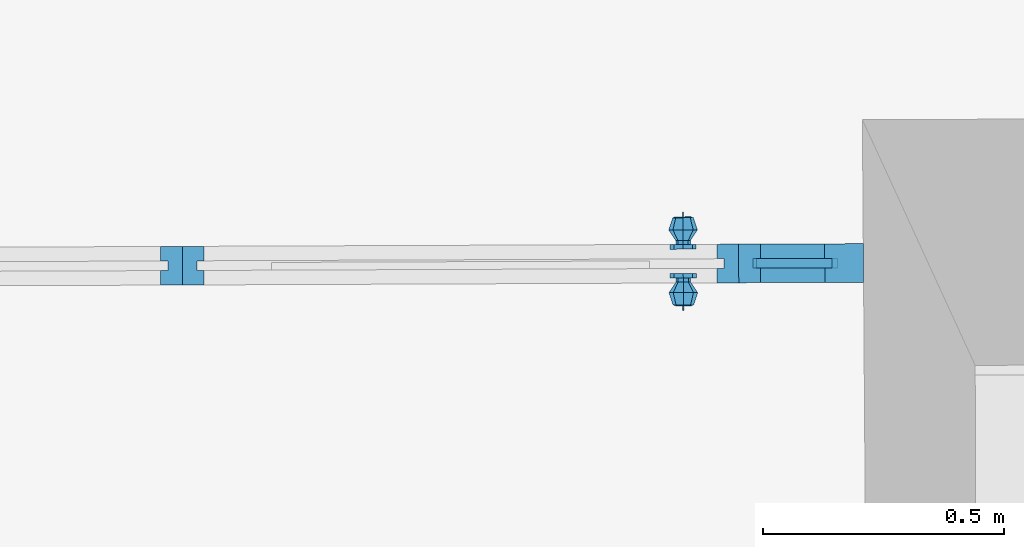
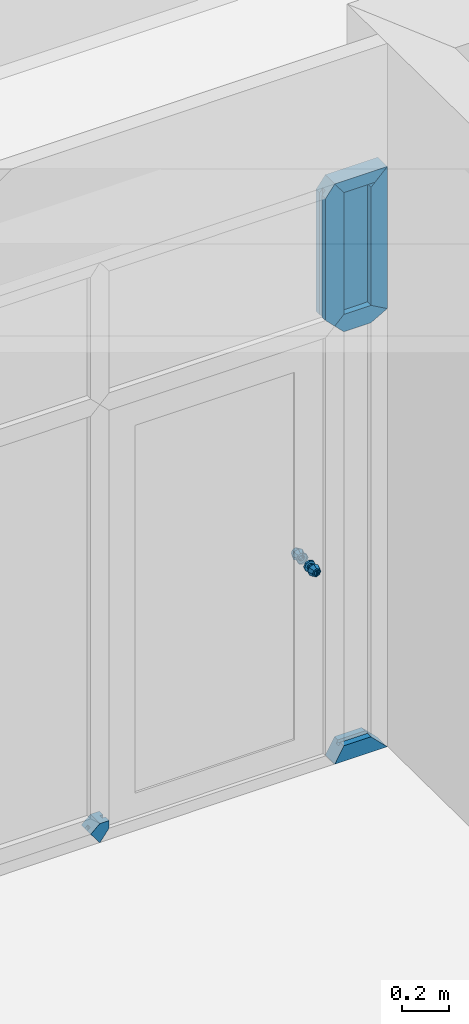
# One storey, part 155 of 196: 8 building element parts, 1 element without a shape of its own.
"""IFC2X3 building model written with IfcOpenShell, lengths in metres."""

from ifc_helpers import new_model, entity, si_unit, converted_unit, derived_unit, money_unit, direction, frame, origin_with_axes, place, context, subcontext, project, spatial, open_shell, faceted_brep, surface_model, material, type_object, element, aggregate, save


model = new_model("IFC2X3")

# Units and contexts
model_context = context("Model", 3, precision=1e-05, world=origin_with_axes(), true_north=direction((0.0, 1.0)))
body_context = subcontext(model_context, "Body", "Model", "MODEL_VIEW")
ifc_project = project(units=[si_unit("LENGTHUNIT", "METRE"), si_unit("AREAUNIT", "SQUARE_METRE"), si_unit("VOLUMEUNIT", "CUBIC_METRE"), converted_unit("PLANEANGLEUNIT", "DEGREE", entity("IfcPlaneAngleMeasure", 0.0174532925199), si_unit("PLANEANGLEUNIT", "RADIAN"), dimensions=[0, 0, 0, 0, 0, 0, 0]), money_unit("EUR"), converted_unit("TIMEUNIT", "Year", entity("IfcTimeMeasure", 31556926.0), si_unit("TIMEUNIT", "SECOND"), dimensions=[0, 0, 1, 0, 0, 0, 0]), si_unit("MASSUNIT", "GRAM", prefix="KILO"), si_unit("THERMODYNAMICTEMPERATUREUNIT", "DEGREE_CELSIUS"), si_unit("LUMINOUSINTENSITYUNIT", "LUMEN"), si_unit("ENERGYUNIT", "JOULE", prefix="MEGA"), derived_unit("THERMALCONDUCTANCEUNIT", [(si_unit("POWERUNIT", "WATT"), 1), (si_unit("LENGTHUNIT", "METRE"), -1), (si_unit("THERMODYNAMICTEMPERATUREUNIT", "KELVIN"), -1)]), derived_unit("SPECIFICHEATCAPACITYUNIT", [(si_unit("ENERGYUNIT", "JOULE"), 1), (si_unit("MASSUNIT", "GRAM", prefix="KILO"), -1), (si_unit("THERMODYNAMICTEMPERATUREUNIT", "KELVIN"), -1)]), derived_unit("MASSDENSITYUNIT", [(si_unit("MASSUNIT", "GRAM", prefix="KILO"), 1), (si_unit("VOLUMEUNIT", "CUBIC_METRE"), -1)])], contexts=[model_context])

# Site, building, storey
site_placement = place(None, origin_with_axes())
site = spatial("IfcSite", under=ifc_project, at=site_placement, Name="Gelände", CompositionType="ELEMENT")
building_placement = place(site_placement, origin_with_axes())
building = spatial("IfcBuilding", under=site, at=building_placement, Name="Gebäude", CompositionType="ELEMENT")
storey_placement = place(building_placement, frame((0.0, 0.0, -3.0), z_axis=(0.0, 0.0, 1.0), x_axis=(1.0, 0.0, 0.0)))
storey = spatial("IfcBuildingStorey", under=building, at=storey_placement, Name="KELLERGESCHOSS", CompositionType="ELEMENT", Elevation=-3.0)

# Proxy, building element parts
building_element_proxy_type = type_object("IfcBuildingElementProxyType", Name="Fassadentyp", PredefinedType="NOTDEFINED")
proxy_placement = place(storey_placement, frame((-23.852064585, 42.2751077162, 0.417602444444), z_axis=(0.0, 0.0, 1.0), x_axis=(1.0, 0.0, 0.0)))
proxy = element("IfcBuildingElementProxy", 1, at=proxy_placement, inside=storey, type_object=building_element_proxy_type, Name="Fassade-002")
ifc_material_1 = material(Name="45_Glas, Normalglas")
building_element_part_1_placement = place(proxy_placement, origin_with_axes())
building_element_part_1 = element("IfcBuildingElementPart", 2, at=building_element_part_1_placement, material=ifc_material_1, Name="45_Glas, Normalglas", context=body_context, shape_type="Brep", body=[
    faceted_brep([(0.0641194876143, 0.0102561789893, 2.96000001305), (-0.0991990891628, 0.00960386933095, 2.96000001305), (-0.0991192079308, -0.0103959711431, 2.96000001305), (0.0641993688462, -0.00974366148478, 2.96000001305), (0.0641194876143, 0.0102561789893, 2.29924697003), (-0.0991990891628, 0.00960386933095, 2.29924697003), (-0.0991192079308, -0.0103959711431, 2.29924697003), (0.0641993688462, -0.00974366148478, 2.29924697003)], [[[0, 1, 2, 3]], [[0, 4, 5, 1]], [[1, 5, 6, 2]], [[3, 2, 6, 7]], [[4, 0, 3, 7]], [[5, 4, 7, 6]]]),
])
ifc_material_2 = material(Name="54_Metall, Edelstahl")
building_element_part_2_placement = place(proxy_placement, origin_with_axes())
building_element_part_2 = element("IfcBuildingElementPart", 3, at=building_element_part_2_placement, material=ifc_material_2, Name="54_Metall, Edelstahl", context=body_context, shape_type="SurfaceModel", body=[
    surface_model("IfcShellBasedSurfaceModel", [(-0.235817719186, -0.0861557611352, 1.0679999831), (-0.232307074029, -0.0882037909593, 1.07150242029), (-0.24380941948, -0.088249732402, 1.07626688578), (-0.243817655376, -0.086187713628, 1.07131369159), (-0.232504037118, -0.0861425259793, 1.0599999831), (-0.227542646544, -0.0881847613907, 1.0599999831), (-0.22880939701, -0.0861395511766, 1.07500831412), (-0.243817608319, -0.0861994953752, 1.08122496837), (-0.255311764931, -0.0882956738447, 1.07150242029), (-0.251817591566, -0.0862196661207, 1.0679999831), (-0.255131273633, -0.0862329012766, 1.0599999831), (-0.251817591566, -0.0862196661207, 1.0519999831), (-0.243817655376, -0.086187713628, 1.0486862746), (-0.235817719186, -0.0861557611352, 1.0519999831), (-0.232307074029, -0.0882037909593, 1.0484975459), (-0.222592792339, -0.0861147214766, 1.0599999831), (-0.222875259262, -0.060967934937, 1.08104294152), (-0.243918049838, -0.0610519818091, 1.08975922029), (-0.258825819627, -0.0862594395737, 1.07500831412), (-0.260076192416, -0.0883147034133, 1.0599999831), (-0.255311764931, -0.0882956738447, 1.0484975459), (-0.24380941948, -0.088249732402, 1.04373308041), (-0.22880939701, -0.0861395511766, 1.04499165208), (-0.214159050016, -0.0609331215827, 1.0599999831), (-0.233399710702, -0.0389325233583, 1.07060658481), (-0.244006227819, -0.0389748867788, 1.0749999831), (-0.264960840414, -0.0611360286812, 1.08104294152), (-0.265042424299, -0.0862842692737, 1.0599999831), (-0.258825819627, -0.0862594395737, 1.04499165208), (-0.243817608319, -0.0861994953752, 1.03877499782), (-0.222875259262, -0.060967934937, 1.03895702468), (-0.229006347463, -0.0389149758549, 1.0599999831), (-0.233399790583, -0.0389125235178, 1.07060658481), (-0.2440063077, -0.0389548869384, 1.0749999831), (-0.254612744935, -0.0390172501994, 1.07060658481), (-0.27367704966, -0.0611708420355, 1.0599999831), (-0.264960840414, -0.0611360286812, 1.03895702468), (-0.243918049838, -0.0610519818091, 1.03024074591), (-0.233399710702, -0.0389325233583, 1.04939338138), (-0.229006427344, -0.0388949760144, 1.0599999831), (-0.233431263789, -0.031032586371, 1.07060658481), (-0.244037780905, -0.0310749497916, 1.0749999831), (-0.254612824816, -0.0389972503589, 1.07060658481), (-0.259006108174, -0.0390347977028, 1.0599999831), (-0.254612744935, -0.0390172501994, 1.04939338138), (-0.244006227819, -0.0389748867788, 1.0449999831), (-0.233399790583, -0.0389125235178, 1.04939338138), (-0.22903790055, -0.0310150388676, 1.0599999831), (-0.233431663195, -0.0309325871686, 1.07060658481), (-0.244038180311, -0.0309749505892, 1.0749999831), (-0.254644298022, -0.0311173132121, 1.07060658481), (-0.259006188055, -0.0390147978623, 1.0599999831), (-0.254612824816, -0.0389972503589, 1.04939338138), (-0.2440063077, -0.0389548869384, 1.0449999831), (-0.233431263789, -0.031032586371, 1.04939338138), (-0.229038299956, -0.0309150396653, 1.0599999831), (-0.233360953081, -0.0309323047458, 1.07067729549), (-0.244038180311, -0.0309749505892, 1.0750999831), (-0.254644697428, -0.0310173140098, 1.07060658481), (-0.259037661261, -0.0311348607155, 1.0599999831), (-0.254644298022, -0.0311173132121, 1.04939338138), (-0.244037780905, -0.0310749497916, 1.0449999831), (-0.233431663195, -0.0309325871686, 1.04939338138), (-0.228938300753, -0.0309146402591, 1.0599999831), (-0.225017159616, -0.030898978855, 1.07902115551), (-0.244038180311, -0.0309749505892, 1.0868999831), (-0.254715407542, -0.0310175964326, 1.07067729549), (-0.259038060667, -0.0310348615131, 1.0599999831), (-0.254644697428, -0.0310173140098, 1.04939338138), (-0.244038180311, -0.0309749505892, 1.0449999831), (-0.233360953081, -0.0309323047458, 1.0493226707), (-0.217138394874, -0.0308675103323, 1.0599999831), (-0.224946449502, -0.0308986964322, 1.07909186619), (-0.244038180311, -0.0309749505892, 1.0869999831), (-0.263059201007, -0.0310509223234, 1.07902115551), (-0.259138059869, -0.0310352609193, 1.0599999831), (-0.254715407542, -0.0310175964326, 1.0493226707), (-0.244038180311, -0.0309749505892, 1.0448999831), (-0.225017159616, -0.030898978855, 1.04097881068), (-0.217038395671, -0.0308671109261, 1.0599999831), (-0.224946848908, -0.0307986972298, 1.07909186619), (-0.244038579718, -0.0308749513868, 1.0869999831), (-0.263129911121, -0.0310512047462, 1.07909186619), (-0.270937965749, -0.0310823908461, 1.0599999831), (-0.263059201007, -0.0310509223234, 1.04097881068), (-0.244038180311, -0.0309749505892, 1.0330999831), (-0.224946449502, -0.0308986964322, 1.0409081), (-0.217038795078, -0.0307671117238, 1.0599999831), (-0.224986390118, -0.0208987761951, 1.07909186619), (-0.244078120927, -0.0209750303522, 1.0869999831), (-0.263130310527, -0.0309512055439, 1.07909186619), (-0.271037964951, -0.0310827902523, 1.0599999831), (-0.263129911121, -0.0310512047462, 1.0409081), (-0.244038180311, -0.0309749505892, 1.0329999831), (-0.224946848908, -0.0307986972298, 1.0409081), (-0.217078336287, -0.0208671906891, 1.0599999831), (-0.263169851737, -0.0210512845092, 1.07909186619), (-0.271038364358, -0.0309827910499, 1.0599999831), (-0.263130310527, -0.0309512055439, 1.0409081), (-0.244038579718, -0.0308749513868, 1.0329999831), (-0.224986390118, -0.0208987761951, 1.0409081), (-0.271077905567, -0.0210828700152, 1.0599999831), (-0.263169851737, -0.0210512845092, 1.0409081), (-0.244078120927, -0.0209750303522, 1.0329999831)], [open_shell([[[0, 1, 2, 3]], [[4, 5, 1, 0]], [[1, 6, 7, 2]], [[3, 2, 8, 9]], [[3, 9, 10, 11, 12, 13, 4, 0]], [[13, 14, 5, 4]], [[5, 15, 6, 1]], [[6, 16, 17, 7]], [[2, 7, 18, 8]], [[9, 8, 19, 10]], [[10, 19, 20, 11]], [[11, 20, 21, 12]], [[12, 21, 14, 13]], [[14, 22, 15, 5]], [[15, 23, 16, 6]], [[16, 24, 25, 17]], [[7, 17, 26, 18]], [[8, 18, 27, 19]], [[19, 27, 28, 20]], [[20, 28, 29, 21]], [[21, 29, 22, 14]], [[22, 30, 23, 15]], [[23, 31, 24, 16]], [[24, 32, 33, 25]], [[17, 25, 34, 26]], [[18, 26, 35, 27]], [[27, 35, 36, 28]], [[28, 36, 37, 29]], [[29, 37, 30, 22]], [[30, 38, 31, 23]], [[31, 39, 32, 24]], [[32, 40, 41, 33]], [[25, 33, 42, 34]], [[26, 34, 43, 35]], [[35, 43, 44, 36]], [[36, 44, 45, 37]], [[37, 45, 38, 30]], [[38, 46, 39, 31]], [[39, 47, 40, 32]], [[40, 48, 49, 41]], [[33, 41, 50, 42]], [[34, 42, 51, 43]], [[43, 51, 52, 44]], [[44, 52, 53, 45]], [[45, 53, 46, 38]], [[46, 54, 47, 39]], [[47, 55, 48, 40]], [[48, 56, 57, 49]], [[41, 49, 58, 50]], [[42, 50, 59, 51]], [[51, 59, 60, 52]], [[52, 60, 61, 53]], [[53, 61, 54, 46]], [[54, 62, 55, 47]], [[55, 63, 56, 48]], [[56, 64, 65, 57]], [[49, 57, 66, 58]], [[50, 58, 67, 59]], [[59, 67, 68, 60]], [[60, 68, 69, 61]], [[61, 69, 62, 54]], [[62, 70, 63, 55]], [[63, 71, 64, 56]], [[64, 72, 73, 65]], [[57, 65, 74, 66]], [[58, 66, 75, 67]], [[67, 75, 76, 68]], [[68, 76, 77, 69]], [[69, 77, 70, 62]], [[70, 78, 71, 63]], [[71, 79, 72, 64]], [[72, 80, 81, 73]], [[65, 73, 82, 74]], [[66, 74, 83, 75]], [[75, 83, 84, 76]], [[76, 84, 85, 77]], [[77, 85, 78, 70]], [[78, 86, 79, 71]], [[79, 87, 80, 72]], [[80, 88, 89, 81]], [[73, 81, 90, 82]], [[74, 82, 91, 83]], [[83, 91, 92, 84]], [[84, 92, 93, 85]], [[85, 93, 86, 78]], [[86, 94, 87, 79]], [[87, 95, 88, 80]], [[81, 89, 96, 90]], [[82, 90, 97, 91]], [[91, 97, 98, 92]], [[92, 98, 99, 93]], [[93, 99, 94, 86]], [[94, 100, 95, 87]], [[90, 96, 101, 97]], [[97, 101, 102, 98]], [[98, 102, 103, 99]], [[99, 103, 100, 94]]])]),
    faceted_brep([(-0.251242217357, -0.0862173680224, 1.05257536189), (-0.254317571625, -0.0862296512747, 1.0599999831), (-0.251242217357, -0.0862173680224, 1.0674246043), (-0.243817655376, -0.086187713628, 1.0704999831), (-0.236393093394, -0.0861580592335, 1.0674246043), (-0.233317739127, -0.0861457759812, 1.0599999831), (-0.236393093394, -0.0861580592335, 1.05257536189), (-0.243817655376, -0.086187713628, 1.0494999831), (-0.251236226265, -0.0877173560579, 1.05257536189), (-0.254311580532, -0.0877296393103, 1.0599999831), (-0.251236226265, -0.0877173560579, 1.0674246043), (-0.243811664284, -0.0876877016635, 1.0704999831), (-0.236387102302, -0.0876580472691, 1.0674246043), (-0.233311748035, -0.0876457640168, 1.0599999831), (-0.236387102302, -0.0876580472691, 1.05257536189), (-0.243811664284, -0.0876877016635, 1.0494999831)], [[[0, 1, 2, 3, 4, 5, 6, 7]], [[0, 8, 9, 1]], [[1, 9, 10, 2]], [[2, 10, 11, 3]], [[3, 11, 12, 4]], [[4, 12, 13, 5]], [[5, 13, 14, 6]], [[6, 14, 15, 7]], [[7, 15, 8, 0]], [[8, 15, 14, 13, 12, 11, 10, 9]]]),
    faceted_brep([(-0.245311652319, -0.0876936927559, 1.0499999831), (-0.242311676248, -0.0876817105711, 1.0499999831), (-0.242283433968, -0.0947527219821, 1.05292891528), (-0.245283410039, -0.0947647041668, 1.05292891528), (-0.245311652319, -0.0876936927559, 1.0699999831), (-0.242311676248, -0.0876817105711, 1.0699999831), (-0.242283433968, -0.0947527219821, 1.06707105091), (-0.242271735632, -0.0976816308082, 1.0599999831), (-0.245271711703, -0.0976936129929, 1.0599999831), (-0.245283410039, -0.0947647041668, 1.06707105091)], [[[0, 1, 2, 3]], [[4, 5, 1, 0]], [[1, 5, 6, 7, 2]], [[3, 2, 7, 8]], [[0, 3, 8, 9, 4]], [[9, 6, 5, 4]], [[8, 7, 6, 9]]]),
    surface_model("IfcShellBasedSurfaceModel", [(-0.236538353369, 0.0942692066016, 1.0679999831), (-0.244538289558, 0.0942372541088, 1.07131369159), (-0.244546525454, 0.0962992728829, 1.07626688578), (-0.233044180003, 0.0963452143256, 1.07150242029), (-0.233224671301, 0.0942824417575, 1.0599999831), (-0.236538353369, 0.0942692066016, 1.0519999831), (-0.244538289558, 0.0942372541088, 1.0486862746), (-0.252538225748, 0.0942053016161, 1.0519999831), (-0.255851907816, 0.0941920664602, 1.0599999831), (-0.252538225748, 0.0942053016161, 1.0679999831), (-0.256048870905, 0.0962533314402, 1.07150242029), (-0.244538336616, 0.0942490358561, 1.08122496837), (-0.229530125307, 0.0943089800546, 1.07500831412), (-0.228279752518, 0.0963642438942, 1.0599999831), (-0.233044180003, 0.0963452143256, 1.0484975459), (-0.244546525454, 0.0962992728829, 1.04373308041), (-0.256048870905, 0.0962533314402, 1.0484975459), (-0.26081329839, 0.0962343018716, 1.0599999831), (-0.259546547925, 0.0941890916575, 1.07500831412), (-0.244437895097, 0.06910152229, 1.08975922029), (-0.223395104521, 0.0691855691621, 1.08104294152), (-0.223313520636, 0.0943338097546, 1.0599999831), (-0.229530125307, 0.0943089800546, 1.04499165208), (-0.244538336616, 0.0942490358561, 1.03877499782), (-0.259546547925, 0.0941890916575, 1.04499165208), (-0.265763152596, 0.0941642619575, 1.0599999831), (-0.265480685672, 0.0690174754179, 1.08104294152), (-0.244349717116, 0.0470244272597, 1.0749999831), (-0.233743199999, 0.0470667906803, 1.07060658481), (-0.214678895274, 0.0692203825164, 1.0599999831), (-0.223395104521, 0.0691855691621, 1.03895702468), (-0.244437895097, 0.06910152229, 1.03024074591), (-0.265480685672, 0.0690174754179, 1.03895702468), (-0.274196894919, 0.0689826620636, 1.0599999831), (-0.254956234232, 0.0469820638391, 1.07060658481), (-0.244349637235, 0.0470044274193, 1.0749999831), (-0.233743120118, 0.0470467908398, 1.07060658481), (-0.22934983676, 0.0470843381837, 1.0599999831), (-0.233743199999, 0.0470667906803, 1.04939338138), (-0.244349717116, 0.0470244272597, 1.0449999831), (-0.254956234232, 0.0469820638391, 1.04939338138), (-0.259349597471, 0.0469645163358, 1.0599999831), (-0.254956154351, 0.0469620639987, 1.07060658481), (-0.244318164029, 0.0391244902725, 1.0749999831), (-0.233711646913, 0.039166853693, 1.07060658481), (-0.229349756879, 0.0470643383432, 1.0599999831), (-0.233743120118, 0.0470467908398, 1.04939338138), (-0.244349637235, 0.0470044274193, 1.0449999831), (-0.254956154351, 0.0469620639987, 1.04939338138), (-0.25934951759, 0.0469445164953, 1.0599999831), (-0.254924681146, 0.0390821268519, 1.07060658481), (-0.244317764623, 0.0390244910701, 1.0749999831), (-0.233711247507, 0.0390668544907, 1.07060658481), (-0.229318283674, 0.0391844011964, 1.0599999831), (-0.233711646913, 0.039166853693, 1.04939338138), (-0.244318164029, 0.0391244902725, 1.0449999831), (-0.254924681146, 0.0390821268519, 1.04939338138), (-0.259318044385, 0.0390645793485, 1.0599999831), (-0.254924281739, 0.0389821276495, 1.07060658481), (-0.244317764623, 0.0390244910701, 1.0750999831), (-0.233640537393, 0.0390671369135, 1.07067729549), (-0.229317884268, 0.039084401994, 1.0599999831), (-0.233711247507, 0.0390668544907, 1.04939338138), (-0.244317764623, 0.0390244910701, 1.0449999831), (-0.254924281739, 0.0389821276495, 1.04939338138), (-0.259317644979, 0.0389645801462, 1.0599999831), (-0.254994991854, 0.0389818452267, 1.07067729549), (-0.244317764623, 0.0390244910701, 1.0868999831), (-0.225296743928, 0.0391004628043, 1.07902115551), (-0.229217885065, 0.0390848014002, 1.0599999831), (-0.233640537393, 0.0390671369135, 1.0493226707), (-0.244317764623, 0.0390244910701, 1.0448999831), (-0.254994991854, 0.0389818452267, 1.0493226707), (-0.259417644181, 0.03896418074, 1.0599999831), (-0.263338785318, 0.0389485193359, 1.07902115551), (-0.244317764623, 0.0390244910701, 1.0869999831), (-0.225226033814, 0.0391007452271, 1.07909186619), (-0.217417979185, 0.039131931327, 1.0599999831), (-0.225296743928, 0.0391004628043, 1.04097881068), (-0.244317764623, 0.0390244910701, 1.0330999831), (-0.263338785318, 0.0389485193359, 1.04097881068), (-0.271217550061, 0.0389170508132, 1.0599999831), (-0.263409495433, 0.0389482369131, 1.07909186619), (-0.244317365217, 0.0389244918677, 1.0869999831), (-0.225225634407, 0.0390007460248, 1.07909186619), (-0.217317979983, 0.0391323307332, 1.0599999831), (-0.225226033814, 0.0391007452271, 1.0409081), (-0.244317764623, 0.0390244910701, 1.0329999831), (-0.263409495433, 0.0389482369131, 1.0409081), (-0.271317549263, 0.038916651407, 1.0599999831), (-0.263409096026, 0.0388482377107, 1.07909186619), (-0.244277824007, 0.0290245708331, 1.0869999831), (-0.225186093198, 0.0291008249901, 1.07909186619), (-0.217317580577, 0.0390323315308, 1.0599999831), (-0.225225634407, 0.0390007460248, 1.0409081), (-0.244317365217, 0.0389244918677, 1.0329999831), (-0.263409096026, 0.0388482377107, 1.0409081), (-0.271317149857, 0.0388166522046, 1.0599999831), (-0.263369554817, 0.028948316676, 1.07909186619), (-0.217278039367, 0.0291324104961, 1.0599999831), (-0.225186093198, 0.0291008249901, 1.0409081), (-0.244277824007, 0.0290245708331, 1.0329999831), (-0.263369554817, 0.028948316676, 1.0409081), (-0.271277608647, 0.02891673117, 1.0599999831)], [open_shell([[[0, 1, 2, 3]], [[1, 0, 4, 5, 6, 7, 8, 9]], [[1, 9, 10, 2]], [[3, 2, 11, 12]], [[4, 0, 3, 13]], [[5, 4, 13, 14]], [[6, 5, 14, 15]], [[7, 6, 15, 16]], [[8, 7, 16, 17]], [[9, 8, 17, 10]], [[2, 10, 18, 11]], [[12, 11, 19, 20]], [[13, 3, 12, 21]], [[14, 13, 21, 22]], [[15, 14, 22, 23]], [[16, 15, 23, 24]], [[17, 16, 24, 25]], [[10, 17, 25, 18]], [[11, 18, 26, 19]], [[20, 19, 27, 28]], [[21, 12, 20, 29]], [[22, 21, 29, 30]], [[23, 22, 30, 31]], [[24, 23, 31, 32]], [[25, 24, 32, 33]], [[18, 25, 33, 26]], [[19, 26, 34, 27]], [[28, 27, 35, 36]], [[29, 20, 28, 37]], [[30, 29, 37, 38]], [[31, 30, 38, 39]], [[32, 31, 39, 40]], [[33, 32, 40, 41]], [[26, 33, 41, 34]], [[27, 34, 42, 35]], [[36, 35, 43, 44]], [[37, 28, 36, 45]], [[38, 37, 45, 46]], [[39, 38, 46, 47]], [[40, 39, 47, 48]], [[41, 40, 48, 49]], [[34, 41, 49, 42]], [[35, 42, 50, 43]], [[44, 43, 51, 52]], [[45, 36, 44, 53]], [[46, 45, 53, 54]], [[47, 46, 54, 55]], [[48, 47, 55, 56]], [[49, 48, 56, 57]], [[42, 49, 57, 50]], [[43, 50, 58, 51]], [[52, 51, 59, 60]], [[53, 44, 52, 61]], [[54, 53, 61, 62]], [[55, 54, 62, 63]], [[56, 55, 63, 64]], [[57, 56, 64, 65]], [[50, 57, 65, 58]], [[51, 58, 66, 59]], [[60, 59, 67, 68]], [[61, 52, 60, 69]], [[62, 61, 69, 70]], [[63, 62, 70, 71]], [[64, 63, 71, 72]], [[65, 64, 72, 73]], [[58, 65, 73, 66]], [[59, 66, 74, 67]], [[68, 67, 75, 76]], [[69, 60, 68, 77]], [[70, 69, 77, 78]], [[71, 70, 78, 79]], [[72, 71, 79, 80]], [[73, 72, 80, 81]], [[66, 73, 81, 74]], [[67, 74, 82, 75]], [[76, 75, 83, 84]], [[77, 68, 76, 85]], [[78, 77, 85, 86]], [[79, 78, 86, 87]], [[80, 79, 87, 88]], [[81, 80, 88, 89]], [[74, 81, 89, 82]], [[75, 82, 90, 83]], [[84, 83, 91, 92]], [[85, 76, 84, 93]], [[86, 85, 93, 94]], [[87, 86, 94, 95]], [[88, 87, 95, 96]], [[89, 88, 96, 97]], [[82, 89, 97, 90]], [[83, 90, 98, 91]], [[93, 84, 92, 99]], [[94, 93, 99, 100]], [[95, 94, 100, 101]], [[96, 95, 101, 102]], [[97, 96, 102, 103]], [[90, 97, 103, 98]]])]),
    faceted_brep([(-0.25196285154, 0.0942075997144, 1.05257536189), (-0.244538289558, 0.0942372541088, 1.0494999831), (-0.237113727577, 0.0942669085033, 1.05257536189), (-0.23403837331, 0.0942791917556, 1.0599999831), (-0.237113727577, 0.0942669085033, 1.0674246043), (-0.244538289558, 0.0942372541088, 1.0704999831), (-0.25196285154, 0.0942075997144, 1.0674246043), (-0.255038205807, 0.0941953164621, 1.0599999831), (-0.251968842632, 0.09570758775, 1.05257536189), (-0.244544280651, 0.0957372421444, 1.0494999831), (-0.237119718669, 0.0957668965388, 1.05257536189), (-0.234044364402, 0.0957791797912, 1.0599999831), (-0.237119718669, 0.0957668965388, 1.0674246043), (-0.244544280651, 0.0957372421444, 1.0704999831), (-0.251968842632, 0.09570758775, 1.0674246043), (-0.2550441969, 0.0956953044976, 1.0599999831)], [[[0, 1, 2, 3, 4, 5, 6, 7]], [[1, 0, 8, 9]], [[2, 1, 9, 10]], [[3, 2, 10, 11]], [[4, 3, 11, 12]], [[5, 4, 12, 13]], [[6, 5, 13, 14]], [[7, 6, 14, 15]], [[0, 7, 15, 8]], [[8, 15, 14, 13, 12, 11, 10, 9]]]),
    faceted_brep([(-0.246044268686, 0.095731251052, 1.0499999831), (-0.246072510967, 0.102802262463, 1.05292891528), (-0.243072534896, 0.102814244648, 1.05292891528), (-0.243044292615, 0.0957432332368, 1.0499999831), (-0.246044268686, 0.095731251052, 1.0699999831), (-0.246072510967, 0.102802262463, 1.06707105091), (-0.246084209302, 0.105731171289, 1.0599999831), (-0.243084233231, 0.105743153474, 1.0599999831), (-0.243072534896, 0.102814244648, 1.06707105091), (-0.243044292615, 0.0957432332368, 1.0699999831)], [[[0, 1, 2, 3]], [[0, 4, 5, 6, 1]], [[1, 6, 7, 2]], [[3, 2, 7, 8, 9]], [[4, 0, 3, 9]], [[5, 4, 9, 8]], [[6, 5, 8, 7]]]),
])
ifc_material_3 = material(Name="53_Metall, Aluminium")
building_element_part_3_placement = place(proxy_placement, origin_with_axes())
building_element_part_3 = element("IfcBuildingElementPart", 4, at=building_element_part_3_placement, material=ifc_material_3, Name="53_Metall, Aluminium", context=body_context, shape_type="Brep", body=[
    faceted_brep([(0.0641194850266, 0.010256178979, 0.065), (0.0641993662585, -0.0097436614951, 0.065), (0.049199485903, -0.00980357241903, 0.08), (0.0493193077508, -0.0398033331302, 0.08), (0.129318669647, -0.0394838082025, 0.0), (0.12899914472, 0.0405155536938, 0.0), (0.0489997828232, 0.0401960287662, 0.08), (0.0491196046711, 0.0101962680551, 0.08), (-0.0926366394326, 0.00963008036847, 0.065), (-0.0925567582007, -0.0103697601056, 0.065), (-0.0841193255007, -0.0103360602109, 0.08), (-0.0839995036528, -0.040335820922, 0.08), (-0.12899914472, -0.0405155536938, 0.0), (-0.129318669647, 0.0394838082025, 0.0), (-0.0843190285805, 0.0396635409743, 0.08), (-0.0841992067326, 0.00966378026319, 0.08)], [[[0, 1, 2, 3, 4, 5, 6, 7]], [[1, 0, 8, 9]], [[10, 2, 1, 9]], [[2, 10, 11, 3]], [[4, 3, 11, 12]], [[5, 4, 12, 13]], [[6, 5, 13, 14]], [[15, 7, 6, 14]], [[0, 7, 15, 8]], [[8, 15, 14, 13, 12, 11, 10, 9]]]),
])
building_element_part_4_placement = place(proxy_placement, origin_with_axes())
building_element_part_4 = element("IfcBuildingElementPart", 5, at=building_element_part_4_placement, material=ifc_material_3, Name="53_Metall, Aluminium", context=body_context, shape_type="Brep", body=[
    faceted_brep([(0.0641194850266, 0.010256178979, 2.94000001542), (0.0641993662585, -0.00974366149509, 2.94000001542), (0.049199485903, -0.00980357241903, 2.92500001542), (0.0493193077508, -0.0398033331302, 2.92500001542), (0.129318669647, -0.0394838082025, 3.00500001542), (0.12899914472, 0.0405155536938, 3.00500001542), (0.0489997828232, 0.0401960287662, 2.92500001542), (0.0491196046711, 0.0101962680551, 2.92500001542), (0.0641194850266, 0.010256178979, 2.30580947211), (0.0641993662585, -0.00974366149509, 2.30580947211), (0.049199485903, -0.00980357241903, 2.31424697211), (0.0493193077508, -0.0398033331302, 2.31424697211), (0.129318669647, -0.0394838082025, 2.26924697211), (0.12899914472, 0.0405155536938, 2.26924697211), (0.0489997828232, 0.0401960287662, 2.31424697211), (0.0491196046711, 0.0101962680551, 2.31424697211)], [[[0, 1, 2, 3, 4, 5, 6, 7]], [[1, 0, 8, 9]], [[10, 2, 1, 9]], [[2, 10, 11, 3]], [[12, 4, 3, 11]], [[13, 5, 4, 12]], [[14, 6, 5, 13]], [[15, 7, 6, 14]], [[0, 7, 15, 8]], [[8, 15, 14, 13, 12, 11, 10, 9]]]),
])
building_element_part_5_placement = place(proxy_placement, origin_with_axes())
building_element_part_5 = element("IfcBuildingElementPart", 6, at=building_element_part_5_placement, material=ifc_material_3, Name="53_Metall, Aluminium", context=body_context, shape_type="Brep", body=[
    faceted_brep([(0.0841193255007, 0.0103360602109, 2.96000001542), (0.0691194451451, 0.010276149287, 2.94500001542), (0.0689996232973, 0.0402759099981, 2.94500001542), (0.12899914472, 0.0405155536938, 3.00500001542), (0.129318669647, -0.0394838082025, 3.00500001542), (0.0693191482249, -0.0397234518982, 2.94500001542), (0.0691993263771, -0.00972369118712, 2.94500001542), (0.0841992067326, -0.00966378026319, 2.96000001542), (-0.0954491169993, 0.00961884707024, 2.96000001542), (-0.0841992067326, 0.00966378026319, 2.94500001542), (-0.0843190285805, 0.0396635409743, 2.94500001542), (-0.129318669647, 0.0394838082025, 3.00500001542), (-0.12899914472, -0.0405155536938, 3.00500001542), (-0.0839995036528, -0.040335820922, 2.94500001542), (-0.0841193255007, -0.0103360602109, 2.94500001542), (-0.0953692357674, -0.0103809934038, 2.96000001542)], [[[0, 1, 2, 3, 4, 5, 6, 7]], [[0, 8, 9, 1]], [[9, 10, 2, 1]], [[2, 10, 11, 3]], [[3, 11, 12, 4]], [[4, 12, 13, 5]], [[6, 5, 13, 14]], [[14, 15, 7, 6]], [[7, 15, 8, 0]], [[8, 15, 14, 13, 12, 11, 10, 9]]]),
])
building_element_part_6_placement = place(proxy_placement, origin_with_axes())
building_element_part_6 = element("IfcBuildingElementPart", 7, at=building_element_part_6_placement, material=ifc_material_3, Name="53_Metall, Aluminium", context=body_context, shape_type="Brep", body=[
    faceted_brep([(-0.0991990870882, 0.00960386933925, 2.96500001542), (-0.0841992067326, 0.00966378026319, 2.94500001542), (-0.0843190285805, 0.0396635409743, 2.94500001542), (-0.129318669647, 0.0394838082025, 3.00500001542), (-0.12899914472, -0.0405155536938, 3.00500001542), (-0.0839995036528, -0.040335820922, 2.94500001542), (-0.0841193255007, -0.0103360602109, 2.94500001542), (-0.0991192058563, -0.0103959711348, 2.96500001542), (-0.0991990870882, 0.00960386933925, 2.29924697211), (-0.0841992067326, 0.00966378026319, 2.31424697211), (-0.0843190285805, 0.0396635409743, 2.31424697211), (-0.129318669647, 0.0394838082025, 2.26924697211), (-0.174318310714, 0.0393040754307, 2.31424697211), (-0.174318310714, 0.0393040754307, 2.94500001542), (-0.174198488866, 0.00930431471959, 2.94500001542), (-0.15919860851, 0.00936422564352, 2.96500001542), (-0.159118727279, -0.0106356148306, 2.96500001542), (-0.174118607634, -0.0106955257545, 2.94500001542), (-0.173998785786, -0.0406952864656, 2.94500001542), (-0.12899914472, -0.0405155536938, 2.26924697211), (-0.0839995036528, -0.040335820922, 2.31424697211), (-0.173998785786, -0.0406952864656, 2.31424697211), (-0.0841193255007, -0.0103360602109, 2.31424697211), (-0.0991192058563, -0.0103959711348, 2.29924697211), (-0.174118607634, -0.0106955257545, 2.31424697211), (-0.159118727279, -0.0106356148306, 2.29924697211), (-0.15919860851, 0.00936422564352, 2.29924697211), (-0.174198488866, 0.00930431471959, 2.31424697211)], [[[0, 1, 2, 3, 4, 5, 6, 7]], [[1, 0, 8, 9]], [[1, 9, 10, 2]], [[11, 12, 13, 3, 2, 10]], [[3, 13, 14, 15, 16, 17, 18, 4]], [[19, 20, 5, 4, 18, 21]], [[22, 6, 5, 20]], [[7, 6, 22, 23]], [[0, 7, 23, 8]], [[23, 22, 20, 19, 11, 10, 9, 8]], [[21, 24, 25, 26, 27, 12, 11, 19]], [[14, 13, 12, 27]], [[14, 27, 26, 15]], [[15, 26, 25, 16]], [[17, 16, 25, 24]], [[24, 21, 18, 17]]]),
])
building_element_part_7_placement = place(proxy_placement, origin_with_axes())
building_element_part_7 = element("IfcBuildingElementPart", 8, at=building_element_part_7_placement, material=ifc_material_3, Name="53_Metall, Aluminium", context=body_context, shape_type="Brep", body=[
    faceted_brep([(0.0757860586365, 0.0103027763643, 2.23924697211), (0.0491196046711, 0.0101962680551, 2.22424697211), (0.0489997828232, 0.0401960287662, 2.22424697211), (0.12899914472, 0.0405155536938, 2.26924697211), (0.129318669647, -0.0394838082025, 2.26924697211), (0.0493193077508, -0.0398033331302, 2.22424697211), (0.049199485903, -0.00980357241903, 2.22424697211), (0.0758659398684, -0.00969706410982, 2.23924697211), (-0.0991990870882, 0.00960386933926, 2.23924697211), (-0.0841992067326, 0.00966378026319, 2.22424697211), (-0.0843190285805, 0.0396635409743, 2.22424697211), (-0.129318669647, 0.0394838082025, 2.26924697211), (-0.0843190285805, 0.0396635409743, 2.31424697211), (0.0489997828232, 0.0401960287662, 2.31424697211), (0.0491196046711, 0.0101962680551, 2.31424697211), (0.0757860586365, 0.0103027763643, 2.29924697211), (0.0758659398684, -0.00969706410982, 2.29924697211), (0.049199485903, -0.00980357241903, 2.31424697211), (0.0493193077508, -0.0398033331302, 2.31424697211), (-0.12899914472, -0.0405155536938, 2.26924697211), (-0.0839995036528, -0.040335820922, 2.22424697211), (-0.0839995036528, -0.040335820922, 2.31424697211), (-0.0841193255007, -0.0103360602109, 2.22424697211), (-0.0991192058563, -0.0103959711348, 2.23924697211), (-0.0841193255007, -0.0103360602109, 2.31424697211), (-0.0991192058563, -0.0103959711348, 2.29924697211), (-0.0991990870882, 0.00960386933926, 2.29924697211), (-0.0841992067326, 0.00966378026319, 2.31424697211)], [[[0, 1, 2, 3, 4, 5, 6, 7]], [[1, 0, 8, 9]], [[1, 9, 10, 2]], [[11, 12, 13, 3, 2, 10]], [[3, 13, 14, 15, 16, 17, 18, 4]], [[19, 20, 5, 4, 18, 21]], [[22, 6, 5, 20]], [[7, 6, 22, 23]], [[0, 7, 23, 8]], [[23, 22, 20, 19, 11, 10, 9, 8]], [[21, 24, 25, 26, 27, 12, 11, 19]], [[14, 13, 12, 27]], [[14, 27, 26, 15]], [[15, 26, 25, 16]], [[17, 16, 25, 24]], [[24, 21, 18, 17]]]),
])
building_element_part_8_placement = place(proxy_placement, origin_with_axes())
building_element_part_8 = element("IfcBuildingElementPart", 9, at=building_element_part_8_placement, material=ifc_material_3, Name="53_Metall, Aluminium", context=body_context, shape_type="Brep", body=[
    faceted_brep([(-1.25205070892, 0.00499927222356, 0.0999732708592), (-1.23705082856, 0.00505918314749, 0.0999732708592), (-1.23717065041, 0.0350589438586, 0.0999732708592), (-1.28217029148, 0.0348792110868, 0.0999732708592), (-1.28185076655, -0.0451201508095, 0.0999732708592), (-1.23685112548, -0.0449404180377, 0.0999732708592), (-1.23697094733, -0.0149406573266, 0.0999732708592), (-1.25197082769, -0.0150005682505, 0.0999732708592), (-1.25205070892, 0.00499927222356, 0.04), (-1.23705082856, 0.00505918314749, 0.06), (-1.23717065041, 0.0350589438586, 0.06), (-1.28217029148, 0.0348792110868, 0.0), (-1.32715790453, 0.0346995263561, 0.0599839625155), (-1.32703808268, 0.00469976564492, 0.0599839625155), (-1.31205023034, 0.00475962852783, 0.0733066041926), (-1.31197034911, -0.0152402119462, 0.0733066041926), (-1.32695820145, -0.0153000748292, 0.0599839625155), (-1.3268383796, -0.0452998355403, 0.0599839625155), (-1.28185076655, -0.0451201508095, 0.0), (-1.23685112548, -0.0449404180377, 0.06), (-1.23697094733, -0.0149406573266, 0.06), (-1.25197082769, -0.0150005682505, 0.04), (-1.31197034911, -0.0152402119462, 0.04), (-1.31205023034, 0.00475962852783, 0.04)], [[[0, 1, 2, 3, 4, 5, 6, 7]], [[1, 0, 8, 9]], [[1, 9, 10, 2]], [[10, 11, 12, 3, 2]], [[3, 12, 13, 14, 15, 16, 17, 4]], [[17, 18, 19, 5, 4]], [[20, 6, 5, 19]], [[7, 6, 20, 21]], [[0, 7, 21, 8]], [[21, 20, 19, 18, 11, 10, 9, 8]], [[17, 16, 22, 23, 13, 12, 11, 18]], [[14, 13, 23]], [[14, 23, 22, 15]], [[22, 16, 15]]]),
])
aggregate(proxy, [building_element_part_1, building_element_part_2, building_element_part_3, building_element_part_4, building_element_part_5, building_element_part_6, building_element_part_7, building_element_part_8])

save(model, "model.ifc")
